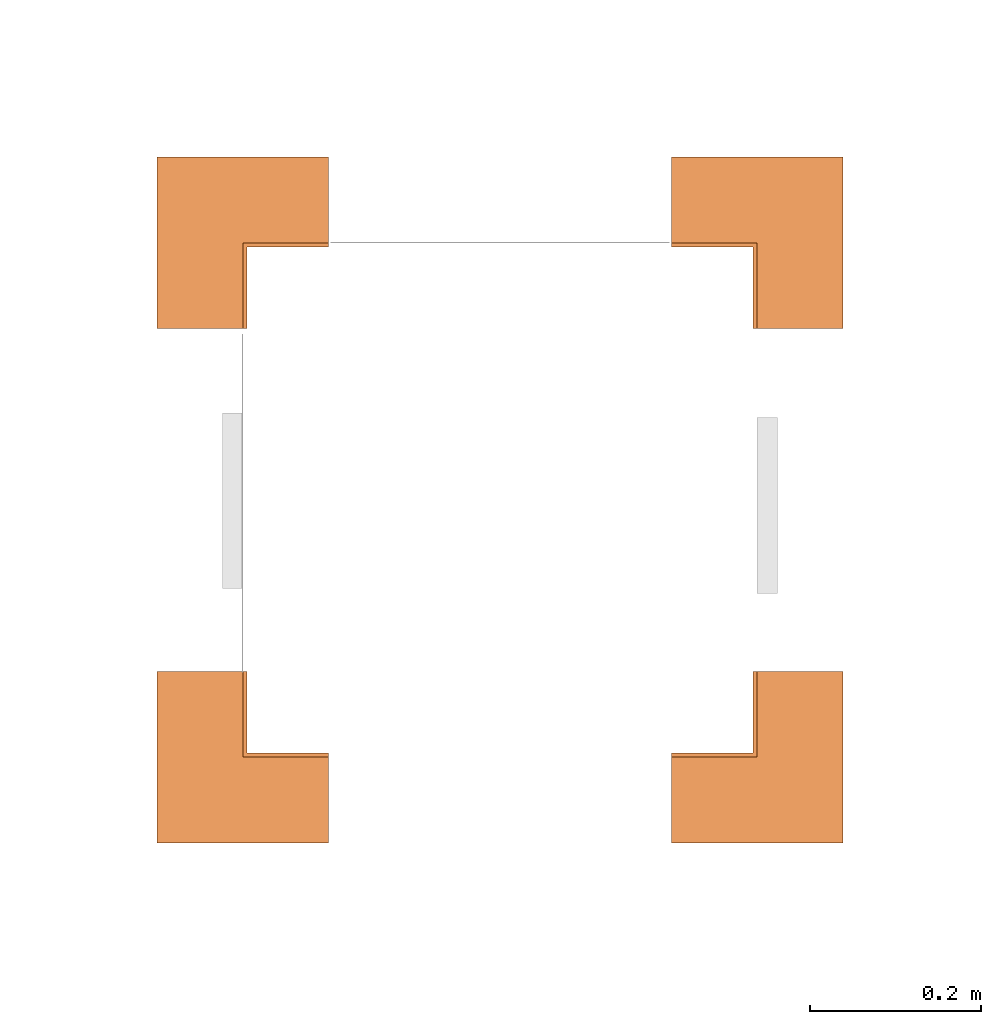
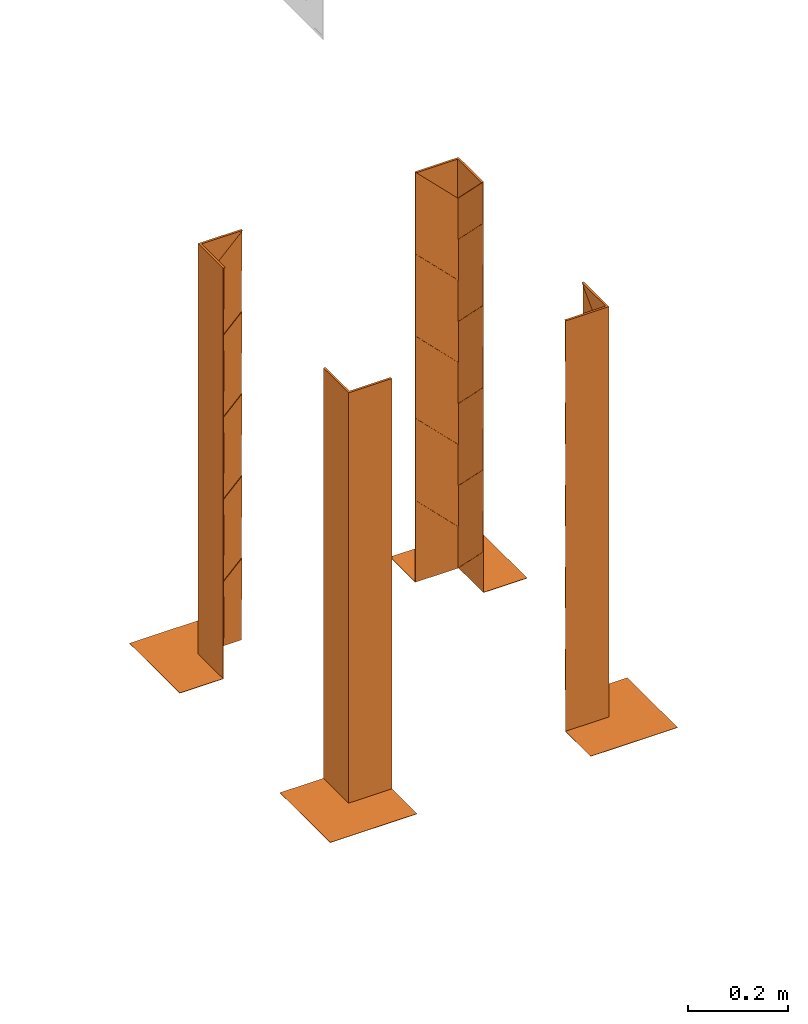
# One storey, part 21 of 119: 4 proxies.
"""IFC2X3 building model written with IfcOpenShell, lengths in metres."""

import ifcopenshell
import ifcopenshell.guid

model = None  # the IFC model being written
_history = None  # IfcOwnerHistory: only IFC2X3 demands one
_inside = {}  # id of a spatial element -> (the spatial element, [elements in it])
_under = {}  # id of a project, library or spatial element -> (it, [spatial elements below it])
_declared = {}  # id of a project -> (the project, [libraries it declares])
_typed = {}  # id of a type object -> (the type object, [elements of that type])
_made_of = {}  # id of a material, layer set ... -> (it, [elements and type objects made of it])


def new_model(schema):
    """Start an empty IFC model of exactly this schema.

    Asked for "IFC4X3", IfcOpenShell would pick the latest addendum, in which some entities
    have other attributes; the version numbers below select the first issue.
    IFC2X3 requires an IfcOwnerHistory on every rooted entity: one is made here for all.
    """
    global model, _history
    if schema == "IFC4X3":
        model = ifcopenshell.file(schema_version=(4, 3, 0, 0))
    else:
        model = ifcopenshell.file(schema=schema)
    _inside.clear()
    _under.clear()
    _declared.clear()
    _typed.clear()
    _made_of.clear()
    _history = None
    if model.schema == "IFC2X3":
        org = make("IfcOrganization", Name="unknown")
        user = make(
            "IfcPersonAndOrganization",
            ThePerson=make("IfcPerson", FamilyName="unknown"),
            TheOrganization=org,
        )
        app = make(
            "IfcApplication",
            ApplicationDeveloper=org,
            Version="unknown",
            ApplicationFullName="unknown",
            ApplicationIdentifier="unknown",
        )
        _history = make(
            "IfcOwnerHistory",
            OwningUser=user,
            OwningApplication=app,
            ChangeAction="ADDED",
            CreationDate=0,
        )
    return model


def make(cls, **values):
    """One entity of the class cls with the attributes given. An attribute that is None is left unset."""
    return model.create_entity(
        cls, **{name: value for name, value in values.items() if value is not None}
    )


def entity(cls, *values):
    """Any entity or typed value of the class cls, its attributes in the order of the schema. None: left unset."""
    e = model.create_entity(cls)
    for i, value in enumerate(values):
        if value is not None:
            e[i] = value
    return e


def rooted(cls, **values):
    """An entity with a GlobalId (a new one), such as an element, a storey or a relation."""
    return make(cls, GlobalId=ifcopenshell.guid.new(), OwnerHistory=_history, **values)


def si_unit(unit_type, name, prefix=None):
    """IfcSIUnit, for example si_unit("LENGTHUNIT", "METRE", prefix="MILLI")."""
    return make("IfcSIUnit", UnitType=unit_type, Prefix=prefix, Name=name)


def converted_unit(unit_type, name, factor, base, dimensions=None, offset=None):
    """IfcConversionBasedUnit, such as the inch: factor (a typed value) times the base unit."""
    return make(
        "IfcConversionBasedUnit"
        if offset is None
        else "IfcConversionBasedUnitWithOffset",
        ConversionOffset=offset,
        Dimensions=None
        if dimensions is None
        else entity("IfcDimensionalExponents", *dimensions),
        UnitType=unit_type,
        Name=name,
        ConversionFactor=make(
            "IfcMeasureWithUnit", ValueComponent=factor, UnitComponent=base
        ),
    )


def derived_unit(unit_type, elements):
    """IfcDerivedUnit: a product of units, each with its exponent."""
    return make(
        "IfcDerivedUnit",
        Elements=[
            make("IfcDerivedUnitElement", Unit=unit, Exponent=power)
            for unit, power in elements
        ],
        UnitType=unit_type,
    )


def assignment(units):
    """IfcUnitAssignment: the units of a project."""
    return None if units is None else make("IfcUnitAssignment", Units=units)


def point(xyz):
    """IfcCartesianPoint."""
    return None if xyz is None else make("IfcCartesianPoint", Coordinates=xyz)


def direction(xyz):
    """IfcDirection."""
    return None if xyz is None else make("IfcDirection", DirectionRatios=xyz)


def frame(location, z_axis=None, x_axis=None):
    """IfcAxis2Placement3D, a coordinate frame: its origin and axes. An axis left out is left unset."""
    return make(
        "IfcAxis2Placement3D",
        Location=point(location),
        Axis=direction(z_axis),
        RefDirection=direction(x_axis),
    )


def origin():
    """The frame at (0, 0, 0) with its axes left unset."""
    return frame((0.0, 0.0, 0.0))


def place(relative_to, where):
    """IfcLocalPlacement: puts the frame where relative to a parent placement (None: the world)."""
    return make(
        "IfcLocalPlacement", PlacementRelTo=relative_to, RelativePlacement=where
    )


def context(
    kind, dimensions, precision=None, world=None, true_north=None, identifier=None
):
    """IfcGeometricRepresentationContext, for example the 3D "Model" context."""
    return make(
        "IfcGeometricRepresentationContext",
        ContextIdentifier=identifier,
        ContextType=kind,
        CoordinateSpaceDimension=dimensions,
        Precision=precision,
        WorldCoordinateSystem=world,
        TrueNorth=true_north,
    )


def subcontext(parent, identifier, kind, view, scale=None):
    """IfcGeometricRepresentationSubContext, for example "Body" below "Model"."""
    return make(
        "IfcGeometricRepresentationSubContext",
        ContextIdentifier=identifier,
        ContextType=kind,
        ParentContext=parent,
        TargetScale=scale,
        TargetView=view,
    )


def project(units=None, contexts=None):
    """IfcProject with its units and contexts."""
    return rooted(
        "IfcProject",
        Name="project",
        RepresentationContexts=contexts,
        UnitsInContext=assignment(units),
    )


def spatial(cls, under=None, at=None, **own):
    """A site, building, storey or space (cls), placed at a placement, below another one or the project."""
    s = rooted(cls, ObjectPlacement=at, **own)
    if under is not None:
        _under.setdefault(under.id(), (under, []))[1].append(s)
    return s


def faces_of(points, faces, orient=None, outer=None):
    """IfcFace entities. A face is a list of loops; a loop is a list of indices into points, from 0.

    orient and outer hold one flag for each loop. By default every Orientation is true, the
    first loop of a face is its IfcFaceOuterBound and the others are IfcFaceBound.
    """
    made = []
    for i, loops in enumerate(faces):
        bounds = []
        for j, loop in enumerate(loops):
            is_outer = j == 0 if outer is None else outer[i][j]
            bounds.append(
                make(
                    "IfcFaceOuterBound" if is_outer else "IfcFaceBound",
                    Bound=make("IfcPolyLoop", Polygon=[points[k] for k in loop]),
                    Orientation=True if orient is None else orient[i][j],
                )
            )
        made.append(make("IfcFace", Bounds=bounds))
    return made


def faceted_brep(points, faces, orient=None, outer=None, voids=None):
    """IfcFacetedBrep: a solid bounded by flat faces; with voids (closed shells), ...WithVoids."""
    shared = [point(p) for p in points]
    hull = make("IfcClosedShell", CfsFaces=faces_of(shared, faces, orient, outer))
    if voids is None:
        return make("IfcFacetedBrep", Outer=hull)
    return make(
        "IfcFacetedBrepWithVoids",
        Outer=hull,
        Voids=[
            make(cls, CfsFaces=faces_of(shared, fs, o, b)) for cls, fs, o, b in voids
        ],
    )


def shape(context_of_items, identifier, shape_type, items):
    """IfcShapeRepresentation: the items that make up one representation, for example the "Body"."""
    return make(
        "IfcShapeRepresentation",
        ContextOfItems=context_of_items,
        RepresentationIdentifier=identifier,
        RepresentationType=shape_type,
        Items=items,
    )


def source(mapping_origin, context_of_items, identifier, shape_type, items):
    """IfcRepresentationMap: a shape defined once, which mapped items show again and again."""
    return make(
        "IfcRepresentationMap",
        MappingOrigin=mapping_origin,
        MappedRepresentation=shape(context_of_items, identifier, shape_type, items),
    )


def transform(
    local_origin,
    x_axis=None,
    y_axis=None,
    z_axis=None,
    scale=None,
    scale2=None,
    scale3=None,
    uniform=True,
):
    """IfcCartesianTransformationOperator3D, or its non-uniform kind. x_axis, y_axis, z_axis: its Axis1, 2, 3."""
    if uniform:
        return make(
            "IfcCartesianTransformationOperator3D",
            Axis1=direction(x_axis),
            Axis2=direction(y_axis),
            LocalOrigin=point(local_origin),
            Scale=scale,
            Axis3=direction(z_axis),
        )
    return make(
        "IfcCartesianTransformationOperator3DnonUniform",
        Axis1=direction(x_axis),
        Axis2=direction(y_axis),
        LocalOrigin=point(local_origin),
        Scale=scale,
        Axis3=direction(z_axis),
        Scale2=scale2,
        Scale3=scale3,
    )


def mapped(mapping_source, mapping_target):
    """IfcMappedItem: shows the shape of a source again, moved by a transform."""
    return make(
        "IfcMappedItem", MappingSource=mapping_source, MappingTarget=mapping_target
    )


def material(Name=None, Category=None):
    """IfcMaterial."""
    return make("IfcMaterial", Name=Name, Category=Category)


def material_list(materials):
    """IfcMaterialList."""
    return make("IfcMaterialList", Materials=materials)


def made_of(thing, what):
    """Note that an element or type object is made of a material, layer set ...; save() writes the relation."""
    if what is not None:
        _made_of.setdefault(what.id(), (what, []))[1].append(thing)
    return thing


def type_object(cls, material=None, **own):
    """A type object (cls), such as IfcWallType, which elements share."""
    return made_of(rooted(cls, **own), material)


def type_shapes(of_type, sources):
    """Give a type object the sources (RepresentationMaps) that its elements show as mapped items."""
    of_type.RepresentationMaps = sources


def element(
    cls,
    number,
    at=None,
    inside=None,
    cuts=None,
    type_object=None,
    material=None,
    context=None,
    identifier="Body",
    shape_type=None,
    held_by="IfcProductDefinitionShape",
    body=None,
    shapes=None,
    **own,
):
    """One element of the class cls, such as IfcWall. Its Tag is "e" and its number.

    at: its placement. inside: the storey or other place that contains it. cuts: it is an
    opening in that element (IfcRelVoidsElement). A single representation is given by context,
    identifier, shape_type and body (its items); several are given by shapes. held_by: the class
    of the entity that holds the representations. save() writes the other relations.
    """
    e = rooted(cls, Tag="e%d" % number, ObjectPlacement=at, **own)
    if body is not None:
        shapes = [shape(context, identifier, shape_type, body)]
    if shapes is not None:
        e.Representation = make(held_by, Representations=shapes)
    if inside is not None:
        _inside.setdefault(inside.id(), (inside, []))[1].append(e)
    if cuts is not None:
        rooted(
            "IfcRelVoidsElement", RelatingBuildingElement=cuts, RelatedOpeningElement=e
        )
    if type_object is not None:
        _typed.setdefault(type_object.id(), (type_object, []))[1].append(e)
    return made_of(e, material)


def aggregate(whole, parts):
    """IfcRelAggregates: a whole, such as a stair, and the parts it consists of."""
    return rooted("IfcRelAggregates", RelatingObject=whole, RelatedObjects=parts)


def save(model, path):
    """Write the relations noted so far, then the file.

    IfcRelAggregates (storeys below a building ...), IfcRelContainedInSpatialStructure (elements
    in a storey), IfcRelDefinesByType, IfcRelAssociatesMaterial and IfcRelDeclares: one each for
    every whole, place, type object, material and project.
    """
    for whole, parts in _under.values():
        aggregate(whole, parts)
    for where, things in _inside.values():
        rooted(
            "IfcRelContainedInSpatialStructure",
            RelatedElements=things,
            RelatingStructure=where,
        )
    for kind, things in _typed.values():
        rooted("IfcRelDefinesByType", RelatedObjects=things, RelatingType=kind)
    for what, things in _made_of.values():
        rooted("IfcRelAssociatesMaterial", RelatedObjects=things, RelatingMaterial=what)
    for by, libraries in _declared.values():
        rooted("IfcRelDeclares", RelatingContext=by, RelatedDefinitions=libraries)
    model.write(path)


model = new_model("IFC2X3")

# Units and contexts
model_context = context("Model", 3, precision=1e-05, world=origin(), true_north=direction((6.12303176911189e-17, 1.0)))
body_context = subcontext(model_context, "Body", "Model", "MODEL_VIEW")
ifc_project = project(units=[si_unit("LENGTHUNIT", "METRE"), si_unit("AREAUNIT", "SQUARE_METRE"), si_unit("VOLUMEUNIT", "CUBIC_METRE"), converted_unit("PLANEANGLEUNIT", "DEGREE", entity("IfcRatioMeasure", 0.0174532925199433), si_unit("PLANEANGLEUNIT", "RADIAN"), dimensions=[0, 0, 0, 0, 0, 0, 0]), si_unit("MASSUNIT", "GRAM", prefix="KILO"), derived_unit("MASSDENSITYUNIT", [(si_unit("MASSUNIT", "GRAM", prefix="KILO"), 1), (si_unit("LENGTHUNIT", "METRE"), -3)]), derived_unit("MOMENTOFINERTIAUNIT", [(si_unit("LENGTHUNIT", "METRE"), 4)]), si_unit("TIMEUNIT", "SECOND"), si_unit("FREQUENCYUNIT", "HERTZ"), si_unit("THERMODYNAMICTEMPERATUREUNIT", "DEGREE_CELSIUS"), derived_unit("THERMALTRANSMITTANCEUNIT", [(si_unit("MASSUNIT", "GRAM", prefix="KILO"), 1), (si_unit("THERMODYNAMICTEMPERATUREUNIT", "KELVIN"), -1), (si_unit("TIMEUNIT", "SECOND"), -3)]), derived_unit("VOLUMETRICFLOWRATEUNIT", [(si_unit("LENGTHUNIT", "METRE"), 3), (si_unit("TIMEUNIT", "SECOND"), -1)]), si_unit("ELECTRICCURRENTUNIT", "AMPERE"), si_unit("ELECTRICVOLTAGEUNIT", "VOLT"), si_unit("POWERUNIT", "WATT"), si_unit("FORCEUNIT", "NEWTON", prefix="KILO"), si_unit("ILLUMINANCEUNIT", "LUX"), si_unit("LUMINOUSFLUXUNIT", "LUMEN"), si_unit("LUMINOUSINTENSITYUNIT", "CANDELA"), derived_unit("USERDEFINED", [(si_unit("MASSUNIT", "GRAM", prefix="KILO"), -1), (si_unit("LENGTHUNIT", "METRE"), -2), (si_unit("TIMEUNIT", "SECOND"), 3), (si_unit("LUMINOUSFLUXUNIT", "LUMEN"), 1)]), derived_unit("LINEARVELOCITYUNIT", [(si_unit("LENGTHUNIT", "METRE"), 1), (si_unit("TIMEUNIT", "SECOND"), -1)]), si_unit("PRESSUREUNIT", "PASCAL"), derived_unit("USERDEFINED", [(si_unit("LENGTHUNIT", "METRE"), -2), (si_unit("MASSUNIT", "GRAM", prefix="KILO"), 1), (si_unit("TIMEUNIT", "SECOND"), -2)]), derived_unit("LINEARFORCEUNIT", [(si_unit("MASSUNIT", "GRAM", prefix="KILO"), 1), (si_unit("LENGTHUNIT", "METRE"), 1), (si_unit("TIMEUNIT", "SECOND"), -2), (si_unit("LENGTHUNIT", "METRE"), -1)]), derived_unit("PLANARFORCEUNIT", [(si_unit("MASSUNIT", "GRAM", prefix="KILO"), 1), (si_unit("LENGTHUNIT", "METRE"), 1), (si_unit("TIMEUNIT", "SECOND"), -2), (si_unit("LENGTHUNIT", "METRE"), -2)])], contexts=[model_context])

# Site, building, storey
site_placement = place(None, origin())
site = spatial("IfcSite", under=ifc_project, at=site_placement, Name="Default", CompositionType="ELEMENT")
building_placement = place(site_placement, origin())
building = spatial("IfcBuilding", under=site, at=building_placement, CompositionType="ELEMENT")
storey_placement = place(building_placement, origin())
storey = spatial("IfcBuildingStorey", under=building, at=storey_placement, Name="PAV. 01 - TÉRREO", CompositionType="ELEMENT", Elevation=0.0)

# Proxies
ifc_material_1 = material(Name="Plastico Amarelo")
ifc_material_2 = material(Name="Plastico Preto")
ifc_material_3 = material(Name="O_01_amarelo")
ifc_material_4 = material(Name="O_01_Preto")
ifc_material_list_1 = material_list([ifc_material_1, ifc_material_2, ifc_material_3, ifc_material_4])
ifc_material_list_2 = material_list([ifc_material_3, ifc_material_4, ifc_material_1])
building_element_proxy_type = type_object("IfcBuildingElementProxyType", Name="Indicação de Obstáculos:Indicador - O01 - Amarelo (ambiente interno)", PredefinedType="NOTDEFINED", material=ifc_material_list_2)
shared_shape = source(origin(), body_context, "Body", "Brep", [
    faceted_brep([(0.1, -0.0499999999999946, 0.000999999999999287), (0.0499999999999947, -0.1, 0.000999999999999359), (0.1, -0.1, 0.000999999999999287), (0.1, -0.0499999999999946, 0.0), (0.1, -0.1, 0.0), (0.0499999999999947, -0.1, 0.0)], [[[0, 1, 2]], [[3, 4, 5]], [[0, 2, 4, 3]], [[1, 0, 3, 5]], [[2, 1, 5, 4]]]),
    faceted_brep([(0.100000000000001, 0.0, 0.000999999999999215), (0.0, -0.1, 0.000999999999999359), (0.049999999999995, -0.1, 0.000999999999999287), (0.100000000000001, -0.0499999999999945, 0.000999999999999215), (0.100000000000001, 0.0, 0.0), (0.100000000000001, -0.0499999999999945, 0.0), (0.049999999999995, -0.1, 0.0), (0.0, -0.1, 0.0)], [[[0, 1, 2, 3]], [[4, 5, 6, 7]], [[0, 3, 5, 4]], [[1, 0, 4, 7]], [[3, 2, 6, 5]], [[2, 1, 7, 6]]]),
    faceted_brep([(0.049999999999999, 0.0, 0.000999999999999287), (-0.0500000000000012, -0.0999999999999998, 0.000999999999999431), (0.0, -0.1, 0.000999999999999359), (0.0999999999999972, 0.0, 0.000999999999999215), (0.049999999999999, 0.0, 0.0), (0.0999999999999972, 0.0, 0.0), (0.0, -0.1, 0.0), (-0.0500000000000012, -0.0999999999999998, 0.0)], [[[0, 1, 2, 3]], [[4, 5, 6, 7]], [[1, 0, 4, 7]], [[3, 2, 6, 5]], [[2, 1, 7, 6]], [[0, 3, 5, 4]]]),
    faceted_brep([(-0.0999999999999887, -0.0999999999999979, 0.000999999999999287), (-0.0499999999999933, -0.0999999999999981, 0.000999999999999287), (0.0499999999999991, 0.0, 0.000999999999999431), (0.0, 0.0, 0.000999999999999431), (-0.0999999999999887, -0.0999999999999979, 0.0), (0.0, 0.0, 0.0), (0.049999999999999, 0.0, 0.0), (-0.0499999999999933, -0.0999999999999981, 0.0)], [[[0, 1, 2, 3]], [[4, 5, 6, 7]], [[0, 3, 5, 4]], [[2, 1, 7, 6]], [[3, 2, 6, 5]], [[1, 0, 4, 7]]]),
    faceted_brep([(0.0, 0.0500000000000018, 0.000999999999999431), (-0.0999999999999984, -0.0500000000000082, 0.000999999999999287), (-0.099999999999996, -0.100000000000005, 0.000999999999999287), (0.0, 0.0, 0.000999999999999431), (0.0, 0.0500000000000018, 0.0), (0.0, 0.0, 0.0), (-0.099999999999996, -0.100000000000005, 0.0), (-0.0999999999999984, -0.0500000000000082, 0.0)], [[[0, 1, 2, 3]], [[4, 5, 6, 7]], [[0, 3, 5, 4]], [[1, 0, 4, 7]], [[2, 1, 7, 6]], [[3, 2, 6, 5]]]),
    faceted_brep([(-0.0999999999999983, 0.0499999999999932, 0.000999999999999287), (-0.0499999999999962, 0.1, 0.000999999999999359), (-0.100000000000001, 0.1, 0.000999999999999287), (-0.0999999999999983, 0.0499999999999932, 0.0), (-0.100000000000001, 0.1, 0.0), (-0.0499999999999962, 0.1, 0.0)], [[[0, 1, 2]], [[3, 4, 5]], [[0, 2, 4, 3]], [[1, 0, 3, 5]], [[2, 1, 5, 4]]]),
    faceted_brep([(-0.0999999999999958, 0.0, 0.000999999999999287), (0.0, 0.1, 0.000999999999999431), (-0.0499999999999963, 0.1, 0.000999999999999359), (-0.0999999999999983, 0.0499999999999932, 0.000999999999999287), (-0.0999999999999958, 0.0, 0.0), (-0.0999999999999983, 0.0499999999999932, 0.0), (-0.0499999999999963, 0.1, 0.0), (0.0, 0.1, 0.0)], [[[0, 1, 2, 3]], [[4, 5, 6, 7]], [[0, 3, 5, 4]], [[1, 0, 4, 7]], [[3, 2, 6, 5]], [[2, 1, 7, 6]]]),
    faceted_brep([(0.0, 0.050000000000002, 0.000999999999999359), (0.0, 0.1, 0.000999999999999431), (-0.0999999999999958, 0.0, 0.000999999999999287), (-0.0999999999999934, -0.0500000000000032, 0.000999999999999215), (0.0, 0.0500000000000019, 0.0), (-0.0999999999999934, -0.0500000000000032, 0.0), (-0.0999999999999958, 0.0, 0.0), (0.0, 0.1, 0.0)], [[[0, 1, 2, 3]], [[4, 5, 6, 7]], [[1, 0, 4, 7]], [[2, 1, 7, 6]], [[0, 3, 5, 4]], [[3, 2, 6, 5]]]),
    faceted_brep([(0.00200000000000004, 0.1, 1.0), (0.002, 0.00199999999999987, 0.902000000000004), (0.002, 0.00199999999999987, 0.802000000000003), (0.00200000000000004, 0.1, 0.900000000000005), (0.0, 0.1, 0.900000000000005), (0.0, 0.0, 0.800000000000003), (0.0, 0.0, 0.900000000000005), (0.0, 0.1, 1.0)], [[[0, 1, 2, 3]], [[4, 5, 6, 7]], [[4, 3, 2, 5]], [[1, 6, 5, 2]], [[6, 1, 0, 7]], [[3, 4, 7, 0]]]),
    faceted_brep([(0.00200000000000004, 0.1, 0.800000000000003), (0.002, 0.00199999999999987, 0.702000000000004), (0.002, 0.00199999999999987, 0.602000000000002), (0.00200000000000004, 0.1, 0.700000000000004), (0.0, 0.1, 0.700000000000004), (0.0, 0.0, 0.600000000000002), (0.0, 0.0, 0.700000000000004), (0.0, 0.1, 0.800000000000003)], [[[0, 1, 2, 3]], [[4, 5, 6, 7]], [[4, 3, 2, 5]], [[1, 6, 5, 2]], [[6, 1, 0, 7]], [[3, 4, 7, 0]]]),
    faceted_brep([(0.00200000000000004, 0.1, 0.600000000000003), (0.002, 0.00199999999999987, 0.502000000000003), (0.002, 0.00199999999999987, 0.402000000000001), (0.00200000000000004, 0.1, 0.500000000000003), (0.0, 0.1, 0.500000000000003), (0.0, 0.0, 0.400000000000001), (0.0, 0.0, 0.500000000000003), (0.0, 0.1, 0.600000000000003)], [[[0, 1, 2, 3]], [[4, 5, 6, 7]], [[4, 3, 2, 5]], [[1, 6, 5, 2]], [[6, 1, 0, 7]], [[3, 4, 7, 0]]]),
    faceted_brep([(0.00200000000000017, 0.0999999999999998, 0.400000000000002), (0.00200000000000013, 0.0019999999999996, 0.302000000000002), (0.00200000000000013, 0.0019999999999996, 0.202), (0.00200000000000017, 0.0999999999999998, 0.300000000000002), (0.0, 0.0999999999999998, 0.300000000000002), (0.0, 0.0, 0.2), (0.0, 0.0, 0.300000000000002), (0.0, 0.0999999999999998, 0.400000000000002)], [[[0, 1, 2, 3]], [[4, 5, 6, 7]], [[4, 3, 2, 5]], [[1, 6, 5, 2]], [[6, 1, 0, 7]], [[3, 4, 7, 0]]]),
    faceted_brep([(0.000500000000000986, 0.1, 0.900000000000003), (0.000500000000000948, 0.000499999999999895, 0.800500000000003), (0.000500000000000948, 0.00049999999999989, 0.700500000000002), (0.000500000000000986, 0.1, 0.800000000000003), (0.0, 0.1, 0.800000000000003), (0.0, 0.0, 0.700000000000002), (0.0, 0.0, 0.800000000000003), (0.0, 0.1, 0.900000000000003)], [[[0, 1, 2, 3]], [[4, 5, 6, 7]], [[4, 3, 2, 5]], [[1, 6, 5, 2]], [[6, 1, 0, 7]], [[3, 4, 7, 0]]]),
    faceted_brep([(0.000500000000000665, 0.1, 0.700000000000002), (0.000500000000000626, 0.000499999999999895, 0.600500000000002), (0.000500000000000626, 0.00049999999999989, 0.500500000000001), (0.000500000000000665, 0.1, 0.600000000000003), (0.0, 0.1, 0.600000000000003), (0.0, 0.0, 0.500000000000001), (0.0, 0.0, 0.600000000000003), (0.0, 0.1, 0.700000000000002)], [[[0, 1, 2, 3]], [[4, 5, 6, 7]], [[4, 3, 2, 5]], [[1, 6, 5, 2]], [[6, 1, 0, 7]], [[3, 4, 7, 0]]]),
    faceted_brep([(0.000500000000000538, 0.0999999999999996, 0.500000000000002), (0.000500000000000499, 0.000499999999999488, 0.400500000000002), (0.000500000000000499, 0.000499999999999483, 0.3005), (0.000500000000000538, 0.0999999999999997, 0.400000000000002), (0.0, 0.0999999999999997, 0.400000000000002), (0.0, 0.0, 0.3), (0.0, 0.0, 0.400000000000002), (0.0, 0.0999999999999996, 0.500000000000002)], [[[0, 1, 2, 3]], [[4, 5, 6, 7]], [[4, 3, 2, 5]], [[1, 6, 5, 2]], [[6, 1, 0, 7]], [[3, 4, 7, 0]]]),
    faceted_brep([(0.00499999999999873, 0.00499999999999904, 1.0), (0.00499999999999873, 0.00499999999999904, 0.904999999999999), (0.00499999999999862, 0.0999999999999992, 1.0), (0.0, 0.0, 0.899999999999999), (0.0, 0.0, 1.0), (0.0, 0.0999999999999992, 1.0)], [[[0, 1, 2]], [[3, 4, 5]], [[4, 0, 2, 5]], [[5, 2, 1, 3]], [[0, 4, 3, 1]]]),
    faceted_brep([(0.00499999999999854, 0.00499999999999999, 1.0), (0.0999999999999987, 0.00499999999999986, 1.0), (0.00499999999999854, 0.00499999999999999, 0.904999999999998), (0.0, 0.0, 0.899999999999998), (0.0999999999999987, 0.0, 1.0), (0.0, 0.0, 1.0)], [[[0, 1, 2]], [[3, 4, 5]], [[5, 4, 1, 0]], [[4, 3, 2, 1]], [[0, 2, 3, 5]]]),
    faceted_brep([(0.0999999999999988, 0.000499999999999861, 0.900000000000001), (0.0999999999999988, 0.000499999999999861, 0.800000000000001), (0.000499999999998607, 0.000499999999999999, 0.7005), (0.000499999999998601, 0.000499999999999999, 0.800500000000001), (0.0999999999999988, 0.0, 0.800000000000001), (0.0999999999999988, 0.0, 0.900000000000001), (0.0, 0.0, 0.800000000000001), (0.0, 0.0, 0.7)], [[[0, 1, 2, 3]], [[4, 5, 6, 7]], [[4, 7, 2, 1]], [[3, 2, 7, 6]], [[6, 5, 0, 3]], [[1, 0, 5, 4]]]),
    faceted_brep([(0.0999999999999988, 0.000499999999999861, 0.700000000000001), (0.0999999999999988, 0.000499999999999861, 0.600000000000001), (0.000499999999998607, 0.000499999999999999, 0.5005), (0.000499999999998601, 0.000499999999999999, 0.600500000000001), (0.0999999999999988, 0.0, 0.600000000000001), (0.0999999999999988, 0.0, 0.700000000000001), (0.0, 0.0, 0.600000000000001), (0.0, 0.0, 0.5)], [[[0, 1, 2, 3]], [[4, 5, 6, 7]], [[4, 7, 2, 1]], [[3, 2, 7, 6]], [[6, 5, 0, 3]], [[1, 0, 5, 4]]]),
    faceted_brep([(0.0999999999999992, 0.000499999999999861, 0.500000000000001), (0.0999999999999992, 0.000499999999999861, 0.400000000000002), (0.000499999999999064, 0.000499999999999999, 0.3005), (0.000499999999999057, 0.000499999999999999, 0.400500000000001), (0.0999999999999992, 0.0, 0.400000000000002), (0.0999999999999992, 0.0, 0.500000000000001), (0.0, 0.0, 0.400000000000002), (0.0, 0.0, 0.3)], [[[0, 1, 2, 3]], [[4, 5, 6, 7]], [[4, 7, 2, 1]], [[3, 2, 7, 6]], [[6, 5, 0, 3]], [[1, 0, 5, 4]]]),
    faceted_brep([(0.0999999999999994, 0.00199999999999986, 1.0), (0.0999999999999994, 0.00199999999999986, 0.900000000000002), (0.00199999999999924, 0.002, 0.802), (0.00199999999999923, 0.002, 0.902000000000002), (0.0999999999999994, 0.0, 0.900000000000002), (0.0999999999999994, 0.0, 1.0), (0.0, 0.0, 0.900000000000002), (0.0, 0.0, 0.8)], [[[0, 1, 2, 3]], [[4, 5, 6, 7]], [[4, 7, 2, 1]], [[3, 2, 7, 6]], [[6, 5, 0, 3]], [[1, 0, 5, 4]]]),
    faceted_brep([(0.0999999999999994, 0.00199999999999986, 0.800000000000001), (0.0999999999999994, 0.00199999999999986, 0.700000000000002), (0.00199999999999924, 0.002, 0.602), (0.00199999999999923, 0.002, 0.702000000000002), (0.0999999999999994, 0.0, 0.700000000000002), (0.0999999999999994, 0.0, 0.800000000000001), (0.0, 0.0, 0.700000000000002), (0.0, 0.0, 0.6)], [[[0, 1, 2, 3]], [[4, 5, 6, 7]], [[4, 7, 2, 1]], [[3, 2, 7, 6]], [[6, 5, 0, 3]], [[1, 0, 5, 4]]]),
    faceted_brep([(0.0999999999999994, 0.00199999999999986, 0.600000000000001), (0.0999999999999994, 0.00199999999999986, 0.500000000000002), (0.00199999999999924, 0.002, 0.402), (0.00199999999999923, 0.002, 0.502000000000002), (0.0999999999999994, 0.0, 0.500000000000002), (0.0999999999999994, 0.0, 0.600000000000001), (0.0, 0.0, 0.500000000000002), (0.0, 0.0, 0.4)], [[[0, 1, 2, 3]], [[4, 5, 6, 7]], [[4, 7, 2, 1]], [[3, 2, 7, 6]], [[6, 5, 0, 3]], [[1, 0, 5, 4]]]),
    faceted_brep([(0.0999999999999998, 0.00199999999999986, 0.400000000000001), (0.0999999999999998, 0.00199999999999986, 0.300000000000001), (0.00199999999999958, 0.002, 0.202), (0.00199999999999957, 0.002, 0.302000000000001), (0.0999999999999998, 0.0, 0.300000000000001), (0.0999999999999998, 0.0, 0.400000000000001), (0.0, 0.0, 0.300000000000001), (0.0, 0.0, 0.2)], [[[0, 1, 2, 3]], [[4, 5, 6, 7]], [[4, 7, 2, 1]], [[3, 2, 7, 6]], [[6, 5, 0, 3]], [[1, 0, 5, 4]]]),
    faceted_brep([(0.000500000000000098, 0.1, 0.300000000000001), (0.000500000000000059, 0.000499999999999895, 0.200500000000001), (0.000500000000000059, 0.00049999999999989, 0.1005), (0.000500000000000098, 0.1, 0.200000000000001), (0.0, 0.1, 0.200000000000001), (0.0, 0.0, 0.0999999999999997), (0.0, 0.0, 0.200000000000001), (0.0, 0.1, 0.300000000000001)], [[[0, 1, 2, 3]], [[4, 5, 6, 7]], [[4, 3, 2, 5]], [[1, 6, 5, 2]], [[6, 1, 0, 7]], [[3, 4, 7, 0]]]),
    faceted_brep([(0.00200000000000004, 0.1, 0.200000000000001), (0.002, 0.00199999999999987, 0.102000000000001), (0.002, 0.00199999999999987, 0.00199999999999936), (0.00200000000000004, 0.1, 0.100000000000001), (0.0, 0.1, 0.100000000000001), (0.0, 0.0, 0.0), (0.0, 0.0, 0.100000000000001), (0.0, 0.1, 0.200000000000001)], [[[0, 1, 2, 3]], [[4, 5, 6, 7]], [[4, 3, 2, 5]], [[1, 6, 5, 2]], [[6, 1, 0, 7]], [[3, 4, 7, 0]]]),
    faceted_brep([(0.000500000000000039, 0.1, 0.100000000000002), (0.0005, 0.000499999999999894, 0.000499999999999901), (0.0005, 0.000499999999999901, 0.0), (0.000500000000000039, 0.1, 0.0), (0.0, 0.0, 0.0), (0.0, 0.1, 0.100000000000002), (0.0, 0.1, 0.0)], [[[0, 1, 2, 3]], [[4, 5, 6]], [[3, 6, 5, 0]], [[6, 3, 2, 4]], [[4, 1, 0, 5]], [[1, 4, 2]]]),
    faceted_brep([(0.0999999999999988, 0.000499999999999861, 0.300000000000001), (0.0999999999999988, 0.000499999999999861, 0.200000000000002), (0.000499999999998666, 0.000499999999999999, 0.1005), (0.00049999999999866, 0.000499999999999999, 0.200500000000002), (0.0999999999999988, 0.0, 0.200000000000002), (0.0999999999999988, 0.0, 0.300000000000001), (0.0, 0.0, 0.200000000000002), (0.0, 0.0, 0.1)], [[[0, 1, 2, 3]], [[4, 5, 6, 7]], [[4, 7, 2, 1]], [[3, 2, 7, 6]], [[6, 5, 0, 3]], [[1, 0, 5, 4]]]),
    faceted_brep([(0.0999999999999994, 0.00199999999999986, 0.200000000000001), (0.0999999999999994, 0.00199999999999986, 0.100000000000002), (0.00199999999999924, 0.002, 0.0019999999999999), (0.00199999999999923, 0.002, 0.102000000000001), (0.0999999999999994, 0.0, 0.100000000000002), (0.0999999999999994, 0.0, 0.200000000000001), (0.0, 0.0, 0.100000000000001), (0.0, 0.0, 0.0)], [[[0, 1, 2, 3]], [[4, 5, 6, 7]], [[4, 7, 2, 1]], [[3, 2, 7, 6]], [[6, 5, 0, 3]], [[1, 0, 5, 4]]]),
    faceted_brep([(0.1, 0.000499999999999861, 0.100000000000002), (0.1, 0.000499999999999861, 0.0), (0.000499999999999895, 0.000499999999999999, 0.0), (0.000499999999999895, 0.000499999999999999, 0.000499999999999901), (0.0, 0.0, 0.0), (0.1, 0.0, 0.0), (0.1, 0.0, 0.100000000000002)], [[[0, 1, 2, 3]], [[4, 5, 6]], [[1, 0, 6, 5]], [[5, 4, 2, 1]], [[4, 6, 0, 3]], [[3, 2, 4]]]),
])
type_shapes(building_element_proxy_type, [shared_shape])
proxy_1_placement = place(storey_placement, frame((81.4737810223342, 22.6286563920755, 0.0), z_axis=(0.0, 0.0, 1.0), x_axis=(0.0, 1.0, 0.0)))
element("IfcBuildingElementProxy", 1, at=proxy_1_placement, inside=storey, type_object=building_element_proxy_type, material=ifc_material_list_1, Name="Indicação de Obstáculos:Indicador - O01 - Amarelo (ambiente interno)", ObjectType="Indicação de Obstáculos:Indicador - O01 - Amarelo (ambiente interno)", context=body_context, shape_type="MappedRepresentation", body=[
    mapped(shared_shape, transform((0.0, 0.0, 0.0), scale=1.0)),
])
ifc_material_list_3 = material_list([ifc_material_1, ifc_material_2, ifc_material_3, ifc_material_4])
proxy_2_placement = place(storey_placement, frame((80.8737817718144, 22.6286563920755, 0.0)))
element("IfcBuildingElementProxy", 2, at=proxy_2_placement, inside=storey, type_object=building_element_proxy_type, material=ifc_material_list_3, Name="Indicação de Obstáculos:Indicador - O01 - Amarelo (ambiente interno)", ObjectType="Indicação de Obstáculos:Indicador - O01 - Amarelo (ambiente interno)", context=body_context, shape_type="MappedRepresentation", body=[
    mapped(shared_shape, transform((0.0, 0.0, 0.0), scale=1.0)),
])
ifc_material_list_4 = material_list([ifc_material_1, ifc_material_2, ifc_material_3, ifc_material_4])
proxy_3_placement = place(storey_placement, frame((81.4737810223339, 23.2286556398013, 0.0), z_axis=(0.0, 0.0, 1.0), x_axis=(-1.0, 0.0, 0.0)))
element("IfcBuildingElementProxy", 3, at=proxy_3_placement, inside=storey, type_object=building_element_proxy_type, material=ifc_material_list_4, Name="Indicação de Obstáculos:Indicador - O01 - Amarelo (ambiente interno)", ObjectType="Indicação de Obstáculos:Indicador - O01 - Amarelo (ambiente interno)", context=body_context, shape_type="MappedRepresentation", body=[
    mapped(shared_shape, transform((0.0, 0.0, 0.0), scale=1.0)),
])
ifc_material_list_5 = material_list([ifc_material_1, ifc_material_2, ifc_material_3, ifc_material_4])
proxy_4_placement = place(storey_placement, frame((80.8737817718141, 23.2286556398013, 0.0), z_axis=(0.0, 0.0, 1.0), x_axis=(0.0, -1.0, 0.0)))
element("IfcBuildingElementProxy", 4, at=proxy_4_placement, inside=storey, type_object=building_element_proxy_type, material=ifc_material_list_5, Name="Indicação de Obstáculos:Indicador - O01 - Amarelo (ambiente interno)", ObjectType="Indicação de Obstáculos:Indicador - O01 - Amarelo (ambiente interno)", context=body_context, shape_type="MappedRepresentation", body=[
    mapped(shared_shape, transform((0.0, 0.0, 0.0), scale=1.0)),
])

save(model, "model.ifc")
